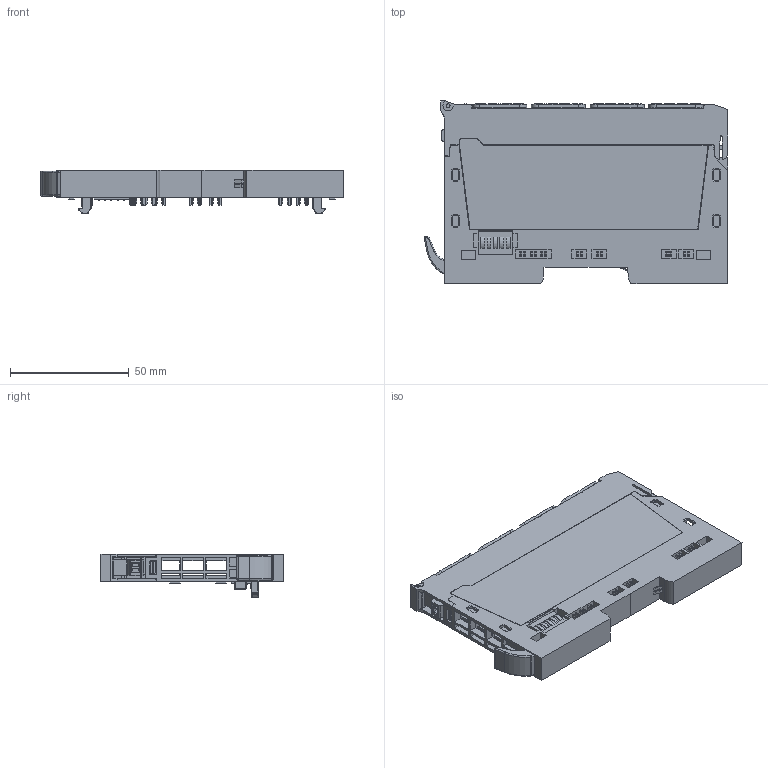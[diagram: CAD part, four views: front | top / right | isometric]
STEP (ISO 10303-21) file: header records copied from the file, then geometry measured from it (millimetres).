
FILE_DESCRIPTION(('CATIA V5R24 STEP','CAx-IF Rec.Pracs.--- Model Styling and Organization---1.2---2011-12-15'),'2;1');
FILE_NAME('\\srvde068\desktop\W007374\brandlable laser layout\Mitsubishi\SP_UR20-4DO-N.stp','2018-05-16T12:05:20+00:00',('Weidmueller Interface'),('WI'),'CATIA Version 5-6 Release 2014 SP4 HF52','CATIA V5 STEP AP214','none');
FILE_SCHEMA(('AUTOMOTIVE_DESIGN { 1 0 10303 214 1 1 1 1 }'));
Products named in the file (8): SP_UR20-4DO-N; SP_UR20_HO_BM; SP_UR20_EM_SP; SP_UR20_HO_EM; 54154_UR20_PCB_PG1-5; SP_UR20_PK; SP_UR20_CNFR; SP_UR20_PG1-5
Assembly tree (10 placements, depth 3):
  SP_UR20-4DO-N
    SP_UR20_HO_BM
    SP_UR20_EM_SP
      SP_UR20_HO_EM
      54154_UR20_PCB_PG1-5
    SP_UR20_PK
      SP_UR20_CNFR
      SP_UR20_PG1-5  x4
Bounding box: 127.88 x 77.45 x 18.5 mm (x, y, z)
Volume: 65925.8 mm3; surface area: 70015 mm2
Topology: 8 solids, 8 shells, 3549 faces, 9998 edges, 6599 vertices
Faces by surface type: plane 2966, cylinder 537, sphere 20, torus 18, bspline 8
Entity records: 82972 total; most frequent: CARTESIAN_POINT 16239, ORIENTED_EDGE 14832, DIRECTION 10466, EDGE_CURVE 7416, VECTOR 6467, LINE 6467, VERTEX_POINT 4889, EDGE_LOOP 2891
